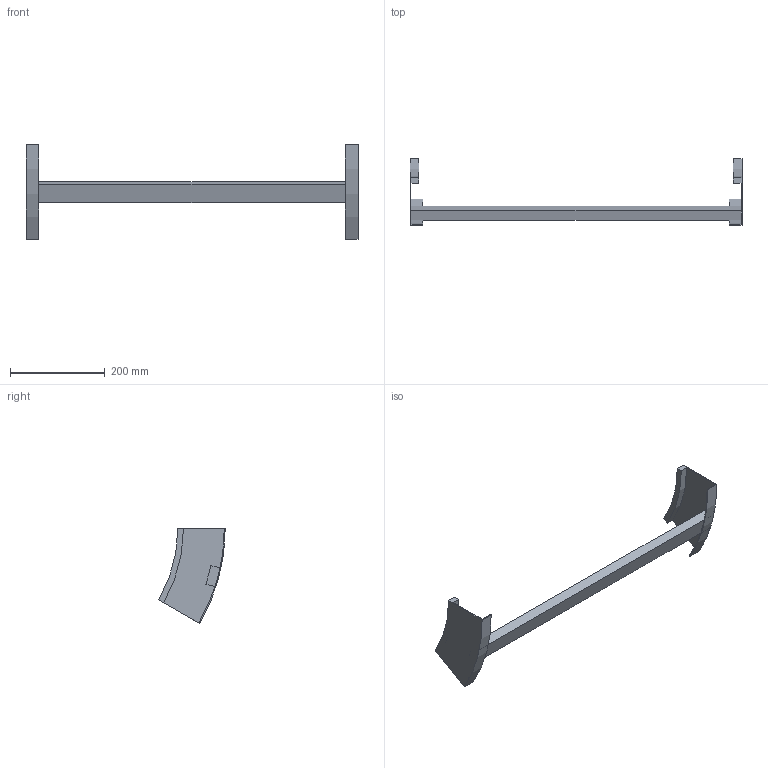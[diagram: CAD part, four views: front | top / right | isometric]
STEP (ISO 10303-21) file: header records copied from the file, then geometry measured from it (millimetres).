
FILE_DESCRIPTION (( 'STEP AP214' ), '1' );
FILE_NAME ('B2X32B3D700XX.step', '2025-03-20T09:58:20', ( '' ), ( '' ), 'SwSTEP 2.0', 'SolidWorks 2023', '' );
FILE_SCHEMA (( 'AUTOMOTIVE_DESIGN' ));
Length unit declared in the file: millimetre
Products named in the file (3): B2X32B3D700XX; B2_LONGH.SALITA_30°_H100_R300; TRAVERSINO_700
Assembly tree (3 placements, depth 2):
  B2X32B3D700XX
    B2_LONGH.SALITA_30°_H100_R300  x2
    TRAVERSINO_700
Bounding box: 700 x 140.19 x 200 mm (x, y, z)
Volume: 719480.4 mm3; surface area: 193519.7 mm2
Topology: 3 solids, 3 shells, 26 faces, 60 edges, 40 vertices
Faces by surface type: plane 18, cylinder 8
Entity records: 544 total; most frequent: DIRECTION 88, CARTESIAN_POINT 82, ORIENTED_EDGE 72, EDGE_CURVE 36, AXIS2_PLACEMENT_3D 30, LINE 28, VECTOR 28, VERTEX_POINT 24
